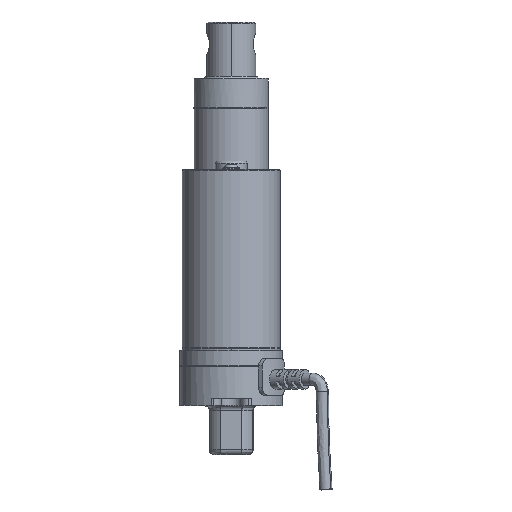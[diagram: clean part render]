
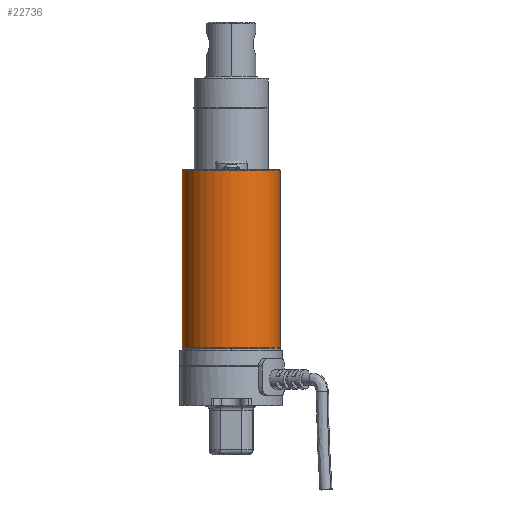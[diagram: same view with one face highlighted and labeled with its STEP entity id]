
A CAD part, top view. The second image highlights one B-rep face of the part: STEP entity #22736.
In plain terms, the highlighted cylindrical face has radius 20 mm (diameter 40 mm), a partial arc.
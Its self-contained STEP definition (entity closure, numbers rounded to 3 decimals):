
#1222 = ORIENTED_EDGE ( 'NONE', *, *, #15763, .T. ) ;
#1503 = VERTEX_POINT ( 'NONE', #1771 ) ;
#1732 = CARTESIAN_POINT ( 'NONE',  ( 3.7, -20., 0. ) ) ;
#1771 = CARTESIAN_POINT ( 'NONE',  ( 76.3, 20., 0. ) ) ;
#2249 = CARTESIAN_POINT ( 'NONE',  ( 76.3, -20., 0. ) ) ;
#2300 = DIRECTION ( 'NONE',  ( 0., 1., 0. ) ) ;
#2414 = DIRECTION ( 'NONE',  ( 1., 0., 0. ) ) ;
#2691 = DIRECTION ( 'NONE',  ( 0., 1., 0. ) ) ;
#3414 = VERTEX_POINT ( 'NONE', #6039 ) ;
#3585 = DIRECTION ( 'NONE',  ( 1., 0., 0. ) ) ;
#3912 = DIRECTION ( 'NONE',  ( 0., 1., 0. ) ) ;
#4060 = AXIS2_PLACEMENT_3D ( 'NONE', #13058, #7594, #3912 ) ;
#4583 = EDGE_CURVE ( 'NONE', #20513, #3414, #5196, .T. ) ;
#5196 = CIRCLE ( 'NONE', #4060, 20. ) ;
#6039 = CARTESIAN_POINT ( 'NONE',  ( 3.7, 20., 0. ) ) ;
#6114 = DIRECTION ( 'NONE',  ( -1., 0., 0. ) ) ;
#7594 = DIRECTION ( 'NONE',  ( 1., 0., 0. ) ) ;
#7773 = DIRECTION ( 'NONE',  ( 1., 0., 0. ) ) ;
#8011 = VERTEX_POINT ( 'NONE', #2249 ) ;
#8294 = ORIENTED_EDGE ( 'NONE', *, *, #23072, .F. ) ;
#8995 = CIRCLE ( 'NONE', #22297, 20. ) ;
#9676 = LINE ( 'NONE', #18733, #20747 ) ;
#11328 = CYLINDRICAL_SURFACE ( 'NONE', #16941, 20. ) ;
#11680 = CARTESIAN_POINT ( 'NONE',  ( 95., 0., 0. ) ) ;
#12619 = CARTESIAN_POINT ( 'NONE',  ( 95., -20., 0. ) ) ;
#13058 = CARTESIAN_POINT ( 'NONE',  ( 3.7, 0., 0. ) ) ;
#15763 = EDGE_CURVE ( 'NONE', #1503, #8011, #8995, .T. ) ;
#16424 = LINE ( 'NONE', #12619, #18113 ) ;
#16941 = AXIS2_PLACEMENT_3D ( 'NONE', #11680, #2414, #2300 ) ;
#16943 = EDGE_LOOP ( 'NONE', ( #8294, #18277, #20987, #1222 ) ) ;
#18113 = VECTOR ( 'NONE', #3585, 1000. ) ;
#18277 = ORIENTED_EDGE ( 'NONE', *, *, #4583, .T. ) ;
#18596 = FACE_OUTER_BOUND ( 'NONE', #16943, .T. ) ;
#18733 = CARTESIAN_POINT ( 'NONE',  ( 95., 20., 0. ) ) ;
#18981 = CARTESIAN_POINT ( 'NONE',  ( 76.3, 0., 0. ) ) ;
#20513 = VERTEX_POINT ( 'NONE', #1732 ) ;
#20572 = EDGE_CURVE ( 'NONE', #3414, #1503, #9676, .T. ) ;
#20747 = VECTOR ( 'NONE', #7773, 1000. ) ;
#20987 = ORIENTED_EDGE ( 'NONE', *, *, #20572, .T. ) ;
#22297 = AXIS2_PLACEMENT_3D ( 'NONE', #18981, #6114, #2691 ) ;
#22736 = ADVANCED_FACE ( 'NONE', ( #18596 ), #11328, .T. ) ;
#23072 = EDGE_CURVE ( 'NONE', #20513, #8011, #16424, .T. ) ;
